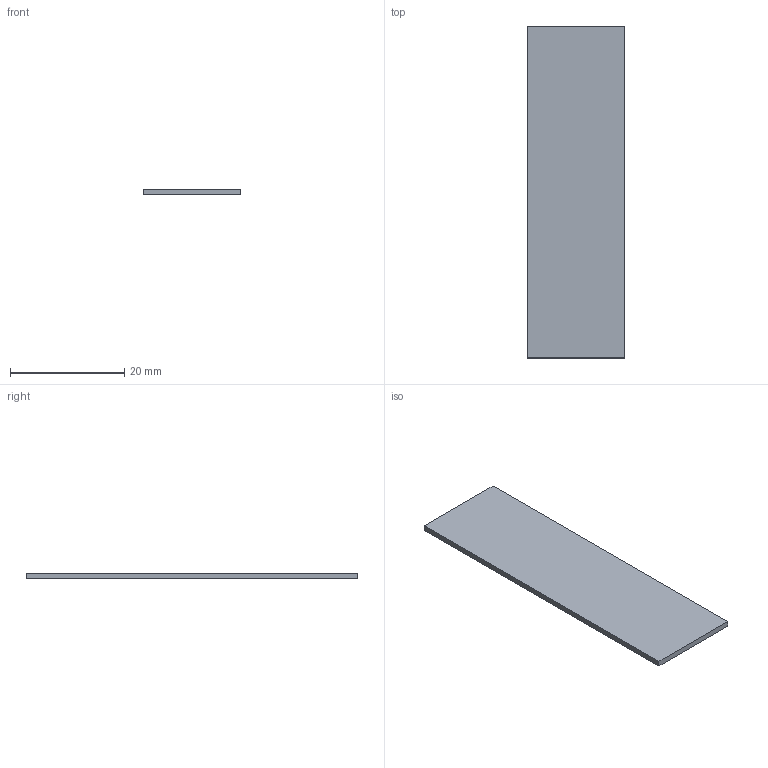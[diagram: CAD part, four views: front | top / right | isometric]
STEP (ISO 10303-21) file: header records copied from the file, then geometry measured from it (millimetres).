
FILE_DESCRIPTION(('Open CASCADE Model'),'2;1');
FILE_NAME('Open CASCADE Shape Model','2026-10-04T02:31:48',('Author'),( 'Open CASCADE'),'Open CASCADE STEP processor 8.0','Open CASCADE 8.0' ,'Unknown');
FILE_SCHEMA(('AUTOMOTIVE_DESIGN { 1 0 10303 214 1 1 1 1 }'));
Length unit declared in the file: millimetre
Products named in the file (1): Open CASCADE STEP translator 8.0 416
Bounding box: 17 x 58 x 1 mm (x, y, z)
Volume: 986 mm3; surface area: 2122 mm2
Topology: 1 solids, 1 shells, 6 faces, 12 edges, 8 vertices
Faces by surface type: plane 6
Entity records: 322 total; most frequent: CARTESIAN_POINT 51, DIRECTION 50, LINE 36, VECTOR 36, ORIENTED_EDGE 24, PCURVE 24, DEFINITIONAL_REPRESENTATION 24, EDGE_CURVE 12
